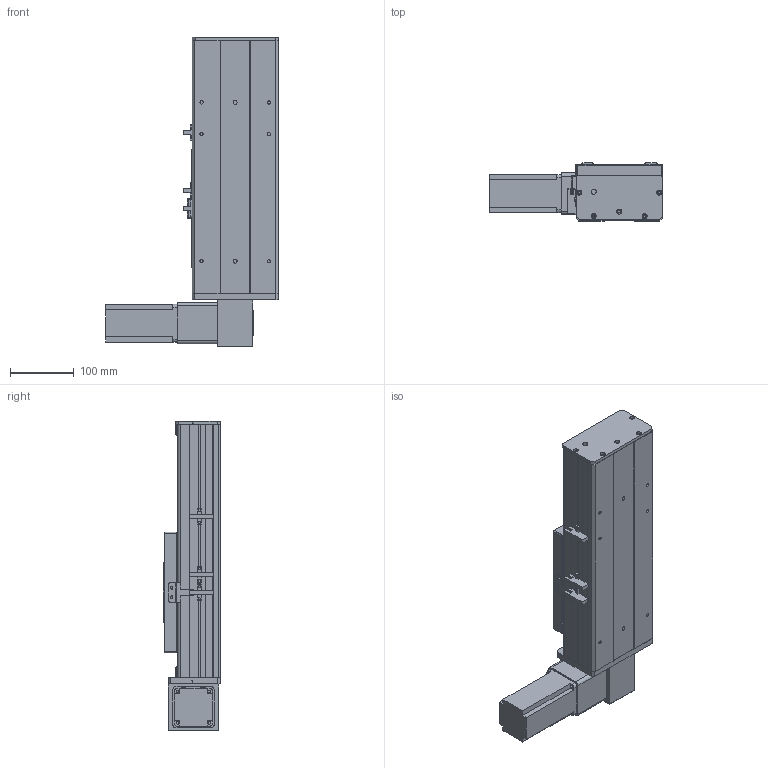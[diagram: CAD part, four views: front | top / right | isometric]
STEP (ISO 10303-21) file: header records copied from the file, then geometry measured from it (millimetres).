
FILE_DESCRIPTION (( 'STEP AP203' ), '1' );
FILE_NAME ('Y135CB-D90-S100-BD-P400W.STEP', '2020-02-19T02:47:51', ( '微软用户' ), ( '微软中国' ), 'SwSTEP 2.0', 'SolidWorks 2017', '' );
FILE_SCHEMA (( 'CONFIG_CONTROL_DESIGN' ));
Length unit declared in the file: millimetre
Products named in the file (16): Y135C-陔俋离換覜結え-; 135CB---遴掛极.-; 5C--俋欶; 35CB---喘謫眊楊擘啣; C-雄赽釱--; 0B-埴倛裔啣; Y10B--々湍喘謫眊--666; 0B-源倛裔啣; san松下电机400不带刹车----; 0B-薊粣ん眊; 5CB --掛极耜裔啣-; Y135CB-D90-S100-BD-P400W; C-詩湍揤踡え-陔; 135CB--詩湍-CE; Y100-135俋离換覜ん--; Y135CB-耜裔
Assembly tree (19 placements, depth 2):
  Y135CB-D90-S100-BD-P400W
    Y135CB-耜裔
    135CB---遴掛极.-
    35CB---喘謫眊楊擘啣
    0B-埴倛裔啣
    0B-源倛裔啣
    san松下电机400不带刹车----
    5CB --掛极耜裔啣-  x2
    C-詩湍揤踡え-陔  x2
    135CB--詩湍-CE
    Y100-135俋离換覜ん--  x3
    Y135C-陔俋离換覜結え-
    5C--俋欶
    C-雄赽釱--
    Y10B--々湍喘謫眊--666
    0B-薊粣ん眊
Bounding box: 272 x 91 x 488 mm (x, y, z)
Volume: 2049458.4 mm3; surface area: 734279.2 mm2
Topology: 19 solids, 19 shells, 839 faces, 2194 edges, 1452 vertices
Faces by surface type: plane 415, cylinder 408, cone 16
Entity records: 25198 total; most frequent: DIRECTION 4198, CARTESIAN_POINT 4071, ORIENTED_EDGE 3864, EDGE_CURVE 1932, AXIS2_PLACEMENT_3D 1531, VERTEX_POINT 1280, VECTOR 1136, LINE 1136
